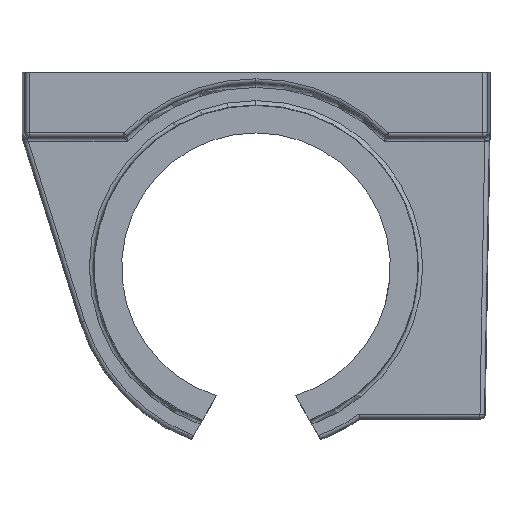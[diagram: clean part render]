
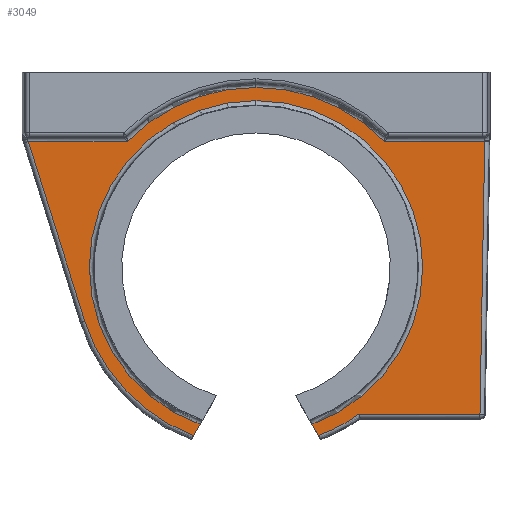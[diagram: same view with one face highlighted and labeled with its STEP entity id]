
A CAD part, front view. The second image highlights one B-rep face of the part: STEP entity #3049.
In plain terms, the highlighted planar face has unit normal (0, -1, 0).
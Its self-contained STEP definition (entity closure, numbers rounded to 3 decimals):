
#3 = CIRCLE ( 'NONE', #1321, 41.5 ) ;
#49 = ORIENTED_EDGE ( 'NONE', *, *, #396, .T. ) ;
#62 = LINE ( 'NONE', #3721, #1108 ) ;
#119 = CARTESIAN_POINT ( 'NONE',  ( 12.91, -13., -75.734 ) ) ;
#147 = LINE ( 'NONE', #2041, #625 ) ;
#186 = VERTEX_POINT ( 'NONE', #4139 ) ;
#189 = DIRECTION ( 'NONE',  ( 0., 0., 1. ) ) ;
#260 = CARTESIAN_POINT ( 'NONE',  ( -39.485, -13., -51.93 ) ) ;
#273 = CIRCLE ( 'NONE', #1442, 41.395 ) ;
#282 = FACE_OUTER_BOUND ( 'NONE', #1841, .T. ) ;
#301 = EDGE_CURVE ( 'NONE', #2416, #2846, #273, .T. ) ;
#324 = EDGE_CURVE ( 'NONE', #2846, #2623, #62, .T. ) ;
#349 = VERTEX_POINT ( 'NONE', #2995 ) ;
#396 = EDGE_CURVE ( 'NONE', #1093, #186, #147, .T. ) ;
#406 = DIRECTION ( 'NONE',  ( 0.3, 0., -0.954 ) ) ;
#421 = VECTOR ( 'NONE', #1943, 1000. ) ;
#425 = EDGE_CURVE ( 'NONE', #349, #4092, #1070, .T. ) ;
#471 = ORIENTED_EDGE ( 'NONE', *, *, #3736, .T. ) ;
#490 = VERTEX_POINT ( 'NONE', #2449 ) ;
#625 = VECTOR ( 'NONE', #3697, 1000. ) ;
#635 = CARTESIAN_POINT ( 'NONE',  ( -14.398, -13., -78.311 ) ) ;
#638 = CARTESIAN_POINT ( 'NONE',  ( -53.763, -13., -10.5 ) ) ;
#666 = DIRECTION ( 'NONE',  ( 0., -1., 0. ) ) ;
#695 = VERTEX_POINT ( 'NONE', #997 ) ;
#716 = ORIENTED_EDGE ( 'NONE', *, *, #1980, .T. ) ;
#726 = LINE ( 'NONE', #1946, #1930 ) ;
#861 = CIRCLE ( 'NONE', #3230, 41.5 ) ;
#903 = DIRECTION ( 'NONE',  ( 0., 1., 0. ) ) ;
#945 = ORIENTED_EDGE ( 'NONE', *, *, #1306, .T. ) ;
#969 = LINE ( 'NONE', #638, #421 ) ;
#997 = CARTESIAN_POINT ( 'NONE',  ( 0., -13., -1.035 ) ) ;
#1068 = CARTESIAN_POINT ( 'NONE',  ( 0., -13., -39.5 ) ) ;
#1070 = LINE ( 'NONE', #2362, #3476 ) ;
#1093 = VERTEX_POINT ( 'NONE', #1843 ) ;
#1101 = ORIENTED_EDGE ( 'NONE', *, *, #1431, .T. ) ;
#1108 = VECTOR ( 'NONE', #1746, 1000. ) ;
#1142 = CARTESIAN_POINT ( 'NONE',  ( 23.763, -13., -73.395 ) ) ;
#1178 = DIRECTION ( 'NONE',  ( 0., 0., 1. ) ) ;
#1306 = EDGE_CURVE ( 'NONE', #695, #1693, #2612, .T. ) ;
#1321 = AXIS2_PLACEMENT_3D ( 'NONE', #2744, #2722, #3355 ) ;
#1330 = CARTESIAN_POINT ( 'NONE',  ( 0., -13., -39.5 ) ) ;
#1351 = ORIENTED_EDGE ( 'NONE', *, *, #1357, .T. ) ;
#1357 = EDGE_CURVE ( 'NONE', #2203, #3991, #3, .T. ) ;
#1431 = EDGE_CURVE ( 'NONE', #4092, #3096, #1591, .T. ) ;
#1442 = AXIS2_PLACEMENT_3D ( 'NONE', #1330, #666, #2602 ) ;
#1591 = CIRCLE ( 'NONE', #1660, 41.395 ) ;
#1622 = CARTESIAN_POINT ( 'NONE',  ( 6.007, -13., -42.968 ) ) ;
#1636 = EDGE_CURVE ( 'NONE', #2623, #1093, #726, .T. ) ;
#1660 = AXIS2_PLACEMENT_3D ( 'NONE', #2491, #2848, #2510 ) ;
#1693 = VERTEX_POINT ( 'NONE', #119 ) ;
#1720 = AXIS2_PLACEMENT_3D ( 'NONE', #2217, #1832, #189 ) ;
#1746 = DIRECTION ( 'NONE',  ( 1., 0., 0. ) ) ;
#1796 = CIRCLE ( 'NONE', #1720, 38.465 ) ;
#1802 = EDGE_CURVE ( 'NONE', #490, #695, #1796, .T. ) ;
#1832 = DIRECTION ( 'NONE',  ( 0., 1., 0. ) ) ;
#1841 = EDGE_LOOP ( 'NONE', ( #3550, #945, #471, #2590, #2466, #2839, #49, #3856, #1351, #2739, #4211, #1101, #716 ) ) ;
#1843 = CARTESIAN_POINT ( 'NONE',  ( 52.773, -13., -10.5 ) ) ;
#1909 = DIRECTION ( 'NONE',  ( 0., 1., 0. ) ) ;
#1930 = VECTOR ( 'NONE', #3959, 1000. ) ;
#1943 = DIRECTION ( 'NONE',  ( -1., 0., 0. ) ) ;
#1946 = CARTESIAN_POINT ( 'NONE',  ( 52.781, -13., -10.054 ) ) ;
#1980 = EDGE_CURVE ( 'NONE', #3096, #490, #2619, .T. ) ;
#2041 = CARTESIAN_POINT ( 'NONE',  ( 30.104, -13., -10.5 ) ) ;
#2203 = VERTEX_POINT ( 'NONE', #2780 ) ;
#2217 = CARTESIAN_POINT ( 'NONE',  ( 0., -13., -39.5 ) ) ;
#2219 = CARTESIAN_POINT ( 'NONE',  ( 0., -13., -39.5 ) ) ;
#2237 = DIRECTION ( 'NONE',  ( 0., 0., 1. ) ) ;
#2362 = CARTESIAN_POINT ( 'NONE',  ( -39.485, -13., -51.93 ) ) ;
#2416 = VERTEX_POINT ( 'NONE', #3585 ) ;
#2449 = CARTESIAN_POINT ( 'NONE',  ( -12.91, -13., -75.734 ) ) ;
#2466 = ORIENTED_EDGE ( 'NONE', *, *, #324, .T. ) ;
#2491 = CARTESIAN_POINT ( 'NONE',  ( 0., -13., -39.5 ) ) ;
#2510 = DIRECTION ( 'NONE',  ( 0., 0., 1. ) ) ;
#2590 = ORIENTED_EDGE ( 'NONE', *, *, #301, .T. ) ;
#2602 = DIRECTION ( 'NONE',  ( 0., 0., 1. ) ) ;
#2612 = CIRCLE ( 'NONE', #3212, 38.465 ) ;
#2619 = LINE ( 'NONE', #1622, #3418 ) ;
#2623 = VERTEX_POINT ( 'NONE', #3835 ) ;
#2722 = DIRECTION ( 'NONE',  ( 0., -1., 0. ) ) ;
#2739 = ORIENTED_EDGE ( 'NONE', *, *, #4218, .T. ) ;
#2744 = CARTESIAN_POINT ( 'NONE',  ( 0., -13., -39.5 ) ) ;
#2780 = CARTESIAN_POINT ( 'NONE',  ( 0., -13., 2. ) ) ;
#2839 = ORIENTED_EDGE ( 'NONE', *, *, #1636, .T. ) ;
#2846 = VERTEX_POINT ( 'NONE', #1142 ) ;
#2848 = DIRECTION ( 'NONE',  ( 0., -1., 0. ) ) ;
#2980 = CARTESIAN_POINT ( 'NONE',  ( -29.686, -13., -10.5 ) ) ;
#2995 = CARTESIAN_POINT ( 'NONE',  ( -52.527, -13., -10.5 ) ) ;
#3012 = EDGE_CURVE ( 'NONE', #186, #2203, #861, .T. ) ;
#3027 = DIRECTION ( 'NONE',  ( 0.5, 0., -0.866 ) ) ;
#3049 = ADVANCED_FACE ( 'NONE', ( #282 ), #3762, .F. ) ;
#3088 = AXIS2_PLACEMENT_3D ( 'NONE', #4085, #903, #1178 ) ;
#3096 = VERTEX_POINT ( 'NONE', #635 ) ;
#3121 = DIRECTION ( 'NONE',  ( 0., -1., 0. ) ) ;
#3212 = AXIS2_PLACEMENT_3D ( 'NONE', #1068, #1909, #3652 ) ;
#3230 = AXIS2_PLACEMENT_3D ( 'NONE', #2219, #3121, #2237 ) ;
#3355 = DIRECTION ( 'NONE',  ( 0., 0., 1. ) ) ;
#3366 = CARTESIAN_POINT ( 'NONE',  ( -6.007, -13., -42.968 ) ) ;
#3418 = VECTOR ( 'NONE', #3527, 1000. ) ;
#3476 = VECTOR ( 'NONE', #406, 1000. ) ;
#3527 = DIRECTION ( 'NONE',  ( 0.5, 0., 0.866 ) ) ;
#3550 = ORIENTED_EDGE ( 'NONE', *, *, #1802, .T. ) ;
#3572 = VECTOR ( 'NONE', #3027, 1000. ) ;
#3585 = CARTESIAN_POINT ( 'NONE',  ( 14.398, -13., -78.311 ) ) ;
#3652 = DIRECTION ( 'NONE',  ( 0., 0., 1. ) ) ;
#3660 = LINE ( 'NONE', #3366, #3572 ) ;
#3697 = DIRECTION ( 'NONE',  ( -1., 0., 0. ) ) ;
#3721 = CARTESIAN_POINT ( 'NONE',  ( 52.64, -13., -73.395 ) ) ;
#3736 = EDGE_CURVE ( 'NONE', #1693, #2416, #3660, .T. ) ;
#3762 = PLANE ( 'NONE',  #3088 ) ;
#3835 = CARTESIAN_POINT ( 'NONE',  ( 51.675, -13., -73.395 ) ) ;
#3856 = ORIENTED_EDGE ( 'NONE', *, *, #3012, .T. ) ;
#3959 = DIRECTION ( 'NONE',  ( 0.017, 0., 1. ) ) ;
#3991 = VERTEX_POINT ( 'NONE', #2980 ) ;
#4085 = CARTESIAN_POINT ( 'NONE',  ( 0., -13., -39.5 ) ) ;
#4092 = VERTEX_POINT ( 'NONE', #260 ) ;
#4139 = CARTESIAN_POINT ( 'NONE',  ( 29.686, -13., -10.5 ) ) ;
#4211 = ORIENTED_EDGE ( 'NONE', *, *, #425, .T. ) ;
#4218 = EDGE_CURVE ( 'NONE', #3991, #349, #969, .T. ) ;
